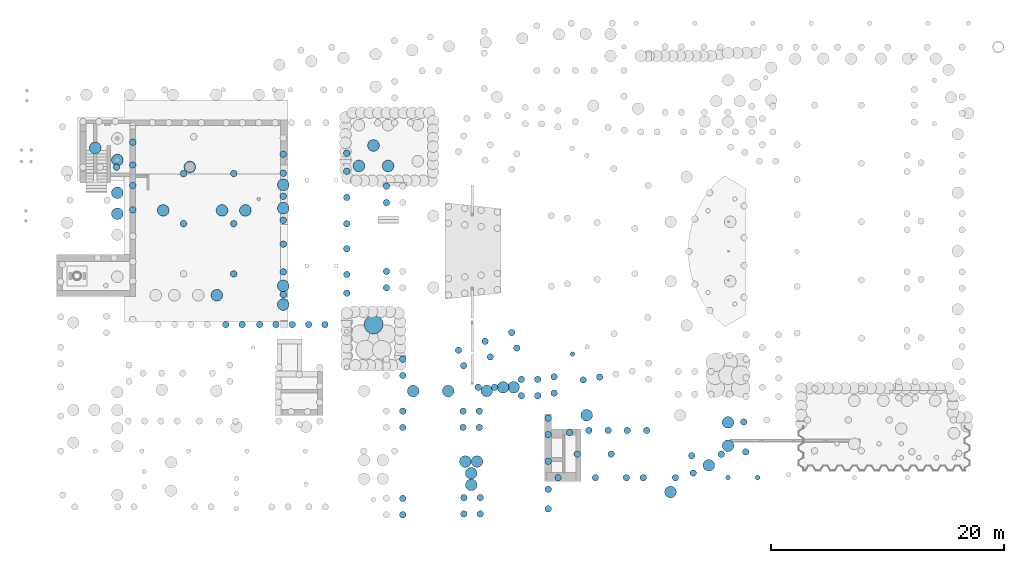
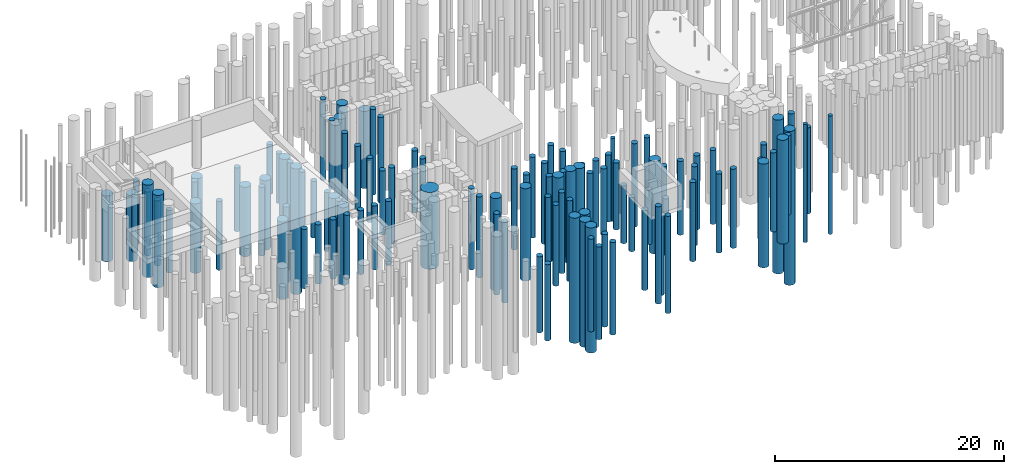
# One storey, part 2 of 104: 121 piles.
"""IFC2X3 building model written with IfcOpenShell, lengths in millimetres."""

from ifc_helpers import new_model, entity, si_unit, converted_unit, derived_unit, direction, frame, frame_2d, origin, place, context, subcontext, project, spatial, circle, extrude, source, transform, mapped, material, element, save


model = new_model("IFC2X3")

# Units and contexts
model_context = context("Model", 3, precision=0.01, world=origin(), true_north=direction((6.12303176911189e-17, 1.0)))
body_context = subcontext(model_context, "Body", "Model", "MODEL_VIEW")
ifc_project = project(units=[si_unit("LENGTHUNIT", "METRE", prefix="MILLI"), si_unit("AREAUNIT", "SQUARE_METRE", prefix="MILLI"), si_unit("VOLUMEUNIT", "CUBIC_METRE"), converted_unit("PLANEANGLEUNIT", "DEGREE", entity("IfcRatioMeasure", 0.0174532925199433), si_unit("PLANEANGLEUNIT", "RADIAN"), dimensions=[0, 0, 0, 0, 0, 0, 0]), si_unit("MASSUNIT", "GRAM", prefix="KILO"), derived_unit("MASSDENSITYUNIT", [(si_unit("MASSUNIT", "GRAM", prefix="KILO"), 1), (si_unit("LENGTHUNIT", "METRE"), -3)]), derived_unit("MOMENTOFINERTIAUNIT", [(si_unit("LENGTHUNIT", "METRE"), 4)]), si_unit("TIMEUNIT", "SECOND"), si_unit("FREQUENCYUNIT", "HERTZ"), si_unit("THERMODYNAMICTEMPERATUREUNIT", "DEGREE_CELSIUS"), derived_unit("THERMALTRANSMITTANCEUNIT", [(si_unit("MASSUNIT", "GRAM", prefix="KILO"), 1), (si_unit("THERMODYNAMICTEMPERATUREUNIT", "KELVIN"), -1), (si_unit("TIMEUNIT", "SECOND"), -3)]), derived_unit("VOLUMETRICFLOWRATEUNIT", [(si_unit("LENGTHUNIT", "METRE"), 3), (si_unit("TIMEUNIT", "SECOND"), -1)]), si_unit("ELECTRICCURRENTUNIT", "AMPERE"), si_unit("ELECTRICVOLTAGEUNIT", "VOLT"), si_unit("POWERUNIT", "WATT"), si_unit("FORCEUNIT", "NEWTON", prefix="KILO"), si_unit("ILLUMINANCEUNIT", "LUX"), si_unit("LUMINOUSFLUXUNIT", "LUMEN"), si_unit("LUMINOUSINTENSITYUNIT", "CANDELA"), derived_unit("USERDEFINED", [(si_unit("MASSUNIT", "GRAM", prefix="KILO"), -1), (si_unit("LENGTHUNIT", "METRE"), -2), (si_unit("TIMEUNIT", "SECOND"), 3), (si_unit("LUMINOUSFLUXUNIT", "LUMEN"), 1)]), derived_unit("LINEARVELOCITYUNIT", [(si_unit("LENGTHUNIT", "METRE"), 1), (si_unit("TIMEUNIT", "SECOND"), -1)]), si_unit("PRESSUREUNIT", "PASCAL"), derived_unit("USERDEFINED", [(si_unit("LENGTHUNIT", "METRE"), -2), (si_unit("MASSUNIT", "GRAM", prefix="KILO"), 1), (si_unit("TIMEUNIT", "SECOND"), -2)]), derived_unit("LINEARFORCEUNIT", [(si_unit("MASSUNIT", "GRAM", prefix="KILO"), 1), (si_unit("LENGTHUNIT", "METRE"), 1), (si_unit("TIMEUNIT", "SECOND"), -2), (si_unit("LENGTHUNIT", "METRE"), -1)]), derived_unit("PLANARFORCEUNIT", [(si_unit("MASSUNIT", "GRAM", prefix="KILO"), 1), (si_unit("LENGTHUNIT", "METRE"), 1), (si_unit("TIMEUNIT", "SECOND"), -2), (si_unit("LENGTHUNIT", "METRE"), -2)])], contexts=[model_context])

# Site, building, storey
site_placement = place(None, origin())
site = spatial("IfcSite", under=ifc_project, at=site_placement, Name="Theater aan de Parade", CompositionType="ELEMENT")
building_placement = place(site_placement, origin())
building = spatial("IfcBuilding", under=site, at=building_placement, Name="Theater aan de Parade", CompositionType="ELEMENT")
storey_placement = place(building_placement, frame((0.0, 0.0, -5520.0)))
storey = spatial("IfcBuildingStorey", under=building, at=storey_placement, Name="-2 kelder", CompositionType="ELEMENT", Elevation=-5520.0)

# Piles
ifc_material_1 = material(Name="<Unnamed>")
shared_shape_1 = source(origin(), body_context, "Body", "SweptSolid", [
    extrude(circle(Radius=280.0, at=frame_2d((-1.47690177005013e-29, -4.61316659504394e-13), x_axis=(1.0, 0.0))), frame((0.0, 0.0, -12360.0)), (0.0, 0.0, 1.0), 5819.99999999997),
])
pile_1_placement = place(storey_placement, frame((15130.0, 39650.0, 5520.0)))
element("IfcPile", 1, at=pile_1_placement, inside=storey, material=ifc_material_1, Name="17_PBT_SFO_paal_rond:Ø560 (betonpaal)_bestaand", ObjectType="17_PBT_SFO_paal_rond:Ø560 (betonpaal)_bestaand", PredefinedType="NOTDEFINED", context=body_context, shape_type="MappedRepresentation", body=[
    mapped(shared_shape_1, transform((0.0, 0.0, 0.0), scale=1.0)),
])
shared_shape_2 = source(origin(), body_context, "Body", "SweptSolid", [
    extrude(circle(Radius=280.0, at=frame_2d((1.69197988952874e-14, -4.61316659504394e-13), x_axis=(1.0, 0.0))), frame((0.0, 0.0, -13360.0)), (0.0, 0.0, 1.0), 6819.99999999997),
])
for number, where in (
    (2, (16525.0, 41780.0, 5520.0)),
    (3, (16525.0, 39830.0, 5520.0)),
    (4, (20875.0, 39100.0, 5520.0)),
    (5, (25175.0, 39100.0, 5520.0)),
):
    element("IfcPile", number, at=place(storey_placement, frame(where)), inside=storey, material=ifc_material_1, Name="17_PBT_SFO_paal_rond:Ø560 (betonpaal)_bestaand", ObjectType="17_PBT_SFO_paal_rond:Ø560 (betonpaal)_bestaand", PredefinedType="NOTDEFINED", context=body_context, shape_type="MappedRepresentation", body=[
        mapped(shared_shape_2, transform((0.0, 0.0, 0.0), scale=1.0)),
    ])
shared_shape_3 = source(origin(), body_context, "Body", "SweptSolid", [
    extrude(circle(Radius=280.0, at=frame_2d((1.69197988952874e-14, -4.61316659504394e-13), x_axis=(1.0, 0.0))), frame((0.0, 0.0, -13360.0)), (0.0, 0.0, 1.0), 6938.99999999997),
])
pile_2_placement = place(storey_placement, frame((16525.0, 38080.0, 5520.0)))
element("IfcPile", 6, at=pile_2_placement, inside=storey, material=ifc_material_1, Name="17_PBT_SFO_paal_rond:Ø560 (betonpaal)_bestaand", ObjectType="17_PBT_SFO_paal_rond:Ø560 (betonpaal)_bestaand", PredefinedType="NOTDEFINED", context=body_context, shape_type="MappedRepresentation", body=[
    mapped(shared_shape_3, transform((0.0, 0.0, 0.0), scale=1.0)),
])
shared_shape_4 = source(origin(), body_context, "Body", "SweptSolid", [
    extrude(circle(Radius=280.0, at=frame_2d((-1.69197988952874e-14, -5.23489148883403e-13), x_axis=(1.0, 0.0))), frame((0.0, 0.0, -12860.0)), (0.0, 0.0, 1.0), 6692.99999999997),
])
pile_3_placement = place(storey_placement, frame((16525.0, 35980.0, 5520.0)))
element("IfcPile", 7, at=pile_3_placement, inside=storey, material=ifc_material_1, Name="17_PBT_SFO_paal_rond:Ø560 (betonpaal)_bestaand", ObjectType="17_PBT_SFO_paal_rond:Ø560 (betonpaal)_bestaand", PredefinedType="NOTDEFINED", context=body_context, shape_type="MappedRepresentation", body=[
    mapped(shared_shape_4, transform((0.0, 0.0, 0.0), scale=1.0)),
])
shared_shape_5 = source(origin(), body_context, "Body", "SweptSolid", [
    extrude(circle(Radius=280.0, at=frame_2d((1.69197988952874e-14, -4.61316659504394e-13), x_axis=(1.0, 0.0))), frame((0.0, 0.0, -11360.0)), (0.0, 0.0, 1.0), 7139.99999999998),
])
for number, where in (
    (8, (49825.0, 20060.0, 5520.0)),
    (9, (49825.0, 21460.0, 5520.0)),
    (10, (51225.0, 20060.0, 5520.0)),
    (11, (52625.0, 20280.0, 5520.0)),
    (12, (51225.0, 21460.0, 5520.0)),
    (13, (52625.0, 21680.0, 5520.0)),
):
    element("IfcPile", number, at=place(storey_placement, frame(where)), inside=storey, material=ifc_material_1, Name="17_PBT_SFO_paal_rond:Ø560 (betonpaal)_bestaand", ObjectType="17_PBT_SFO_paal_rond:Ø560 (betonpaal)_bestaand", PredefinedType="NOTDEFINED", context=body_context, shape_type="MappedRepresentation", body=[
        mapped(shared_shape_5, transform((0.0, 0.0, 0.0), scale=1.0)),
    ])
shared_shape_6 = source(origin(), body_context, "Body", "SweptSolid", [
    extrude(circle(Radius=280.0, at=frame_2d((1.69197988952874e-14, -4.61316659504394e-13), x_axis=(1.0, 0.0))), frame((0.0, 0.0, -12610.0)), (0.0, 0.0, 1.0), 8889.99999999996),
])
for number, where in (
    (14, (55125.0, 21417.0, 5520.0)),
    (15, (56525.0, 21662.0, 5520.0)),
):
    element("IfcPile", number, at=place(storey_placement, frame(where)), inside=storey, material=ifc_material_1, Name="17_PBT_SFO_paal_rond:Ø560 (betonpaal)_bestaand", ObjectType="17_PBT_SFO_paal_rond:Ø560 (betonpaal)_bestaand", PredefinedType="NOTDEFINED", context=body_context, shape_type="MappedRepresentation", body=[
        mapped(shared_shape_6, transform((0.0, 0.0, 0.0), scale=1.0)),
    ])
shared_shape_7 = source(origin(), body_context, "Body", "SweptSolid", [
    extrude(circle(Radius=280.0, at=frame_2d((1.69197988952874e-14, -4.61316659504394e-13), x_axis=(1.0, 0.0))), frame((0.0, 0.0, -12860.0)), (0.0, 0.0, 1.0), 9139.99999999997),
])
for number, where in (
    (16, (47525.0, 20780.0, 5520.0)),
    (17, (46125.0, 20780.0, 5520.0)),
):
    element("IfcPile", number, at=place(storey_placement, frame(where)), inside=storey, material=ifc_material_1, Name="17_PBT_SFO_paal_rond:Ø560 (betonpaal)_bestaand", ObjectType="17_PBT_SFO_paal_rond:Ø560 (betonpaal)_bestaand", PredefinedType="NOTDEFINED", context=body_context, shape_type="MappedRepresentation", body=[
        mapped(shared_shape_7, transform((0.0, 0.0, 0.0), scale=1.0)),
    ])
shared_shape_8 = source(origin(), body_context, "Body", "SweptSolid", [
    extrude(circle(Radius=280.0, at=frame_2d((1.69197988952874e-14, -4.61316659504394e-13), x_axis=(1.0, 0.0))), frame((0.0, 0.0, -11860.0)), (0.0, 0.0, 1.0), 8139.99999999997),
])
pile_4_placement = place(storey_placement, frame((34865.0, 28850.0, 5520.0)))
element("IfcPile", 18, at=pile_4_placement, inside=storey, material=ifc_material_1, Name="17_PBT_SFO_paal_rond:Ø560 (betonpaal)_bestaand", ObjectType="17_PBT_SFO_paal_rond:Ø560 (betonpaal)_bestaand", PredefinedType="NOTDEFINED", context=body_context, shape_type="MappedRepresentation", body=[
    mapped(shared_shape_8, transform((0.0, 0.0, 0.0), scale=1.0)),
])
shared_shape_9 = source(origin(), body_context, "Body", "SweptSolid", [
    extrude(circle(Radius=280.0, at=frame_2d((1.69197988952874e-14, -4.61316659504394e-13), x_axis=(1.0, 0.0))), frame((0.0, 0.0, -11860.0)), (0.0, 0.0, 1.0), 6839.99999999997),
])
for number, where in (
    (19, (28795.0, 26160.0, 5520.0)),
    (20, (30195.0, 26160.0, 5520.0)),
    (21, (31595.0, 26160.0, 5520.0)),
    (22, (32995.0, 26160.0, 5520.0)),
    (23, (34865.0, 34800.0, 5520.0)),
    (24, (34865.0, 32650.0, 5520.0)),
    (25, (34865.0, 30450.0, 5520.0)),
):
    element("IfcPile", number, at=place(storey_placement, frame(where)), inside=storey, material=ifc_material_1, Name="17_PBT_SFO_paal_rond:Ø560 (betonpaal)_bestaand", ObjectType="17_PBT_SFO_paal_rond:Ø560 (betonpaal)_bestaand", PredefinedType="NOTDEFINED", context=body_context, shape_type="MappedRepresentation", body=[
        mapped(shared_shape_9, transform((0.0, 0.0, 0.0), scale=1.0)),
    ])
shared_shape_10 = source(origin(), body_context, "Body", "SweptSolid", [
    extrude(circle(Radius=280.0, at=frame_2d((1.69197988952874e-14, -4.61316659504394e-13), x_axis=(1.0, 0.0))), frame((0.0, 0.0, -11360.0)), (0.0, 0.0, 1.0), 6339.99999999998),
])
for number, where in (
    (26, (24495.0, 26160.0, 5520.0)),
    (27, (25895.0, 26160.0, 5520.0)),
    (28, (27395.0, 26160.0, 5520.0)),
):
    element("IfcPile", number, at=place(storey_placement, frame(where)), inside=storey, material=ifc_material_1, Name="17_PBT_SFO_paal_rond:Ø560 (betonpaal)_bestaand", ObjectType="17_PBT_SFO_paal_rond:Ø560 (betonpaal)_bestaand", PredefinedType="NOTDEFINED", context=body_context, shape_type="MappedRepresentation", body=[
        mapped(shared_shape_10, transform((0.0, 0.0, 0.0), scale=1.0)),
    ])
shared_shape_11 = source(origin(), body_context, "Body", "SweptSolid", [
    extrude(circle(Radius=280.0, at=frame_2d((1.69197988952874e-14, -4.61316659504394e-13), x_axis=(1.0, 0.0))), frame((0.0, 0.0, -12360.0)), (0.0, 0.0, 1.0), 7339.99999999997),
])
for number, where in (
    (29, (34865.0, 39300.0, 5520.0)),
    (30, (34865.0, 37050.0, 5520.0)),
):
    element("IfcPile", number, at=place(storey_placement, frame(where)), inside=storey, material=ifc_material_1, Name="17_PBT_SFO_paal_rond:Ø560 (betonpaal)_bestaand", ObjectType="17_PBT_SFO_paal_rond:Ø560 (betonpaal)_bestaand", PredefinedType="NOTDEFINED", context=body_context, shape_type="MappedRepresentation", body=[
        mapped(shared_shape_11, transform((0.0, 0.0, 0.0), scale=1.0)),
    ])
shared_shape_12 = source(origin(), body_context, "Body", "SweptSolid", [
    extrude(circle(Radius=280.0, at=frame_2d((1.69197988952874e-14, -4.61316659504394e-13), x_axis=(1.0, 0.0))), frame((0.0, 0.0, -12360.0)), (0.0, 0.0, 1.0), 6849.99999999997),
])
pile_5_placement = place(storey_placement, frame((25175.0, 30500.0, 5520.0)))
element("IfcPile", 31, at=pile_5_placement, inside=storey, material=ifc_material_1, Name="17_PBT_SFO_paal_rond:Ø560 (betonpaal)_bestaand", ObjectType="17_PBT_SFO_paal_rond:Ø560 (betonpaal)_bestaand", PredefinedType="NOTDEFINED", context=body_context, shape_type="MappedRepresentation", body=[
    mapped(shared_shape_12, transform((0.0, 0.0, 0.0), scale=1.0)),
])
shared_shape_13 = source(origin(), body_context, "Body", "SweptSolid", [
    extrude(circle(Radius=280.0, at=frame_2d((1.69197988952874e-14, -4.61316659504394e-13), x_axis=(1.0, 0.0))), frame((0.0, 0.0, -13360.0)), (0.0, 0.0, 1.0), 7351.99999999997),
])
for number, where in (
    (32, (20875.0, 34800.0, 5520.0)),
    (33, (25175.0, 34800.0, 5520.0)),
):
    element("IfcPile", number, at=place(storey_placement, frame(where)), inside=storey, material=ifc_material_1, Name="17_PBT_SFO_paal_rond:Ø560 (betonpaal)_bestaand", ObjectType="17_PBT_SFO_paal_rond:Ø560 (betonpaal)_bestaand", PredefinedType="NOTDEFINED", context=body_context, shape_type="MappedRepresentation", body=[
        mapped(shared_shape_13, transform((0.0, 0.0, 0.0), scale=1.0)),
    ])
shared_shape_14 = source(origin(), body_context, "Body", "SweptSolid", [
    extrude(circle(Radius=280.0, at=frame_2d((1.69197988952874e-14, -4.61316659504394e-13), x_axis=(1.0, 0.0))), frame((0.0, 0.0, -11860.0)), (0.0, 0.0, 1.0), 5319.99999999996),
])
for number, where in (
    (34, (29425.0, 40750.0, 5520.0)),
    (35, (29425.0, 39130.0, 5520.0)),
):
    element("IfcPile", number, at=place(storey_placement, frame(where)), inside=storey, material=ifc_material_1, Name="17_PBT_SFO_paal_rond:Ø560 (betonpaal)_bestaand", ObjectType="17_PBT_SFO_paal_rond:Ø560 (betonpaal)_bestaand", PredefinedType="NOTDEFINED", context=body_context, shape_type="MappedRepresentation", body=[
        mapped(shared_shape_14, transform((0.0, 0.0, 0.0), scale=1.0)),
    ])
shared_shape_15 = source(origin(), body_context, "Body", "SweptSolid", [
    extrude(circle(Radius=280.0, at=frame_2d((1.69197988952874e-14, -4.61316659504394e-13), x_axis=(1.0, 0.0))), frame((0.0, 0.0, -11860.0)), (0.0, 0.0, 1.0), 5561.99999999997),
])
pile_6_placement = place(storey_placement, frame((29425.0, 37150.0, 5520.0)))
element("IfcPile", 36, at=pile_6_placement, inside=storey, material=ifc_material_1, Name="17_PBT_SFO_paal_rond:Ø560 (betonpaal)_bestaand", ObjectType="17_PBT_SFO_paal_rond:Ø560 (betonpaal)_bestaand", PredefinedType="NOTDEFINED", context=body_context, shape_type="MappedRepresentation", body=[
    mapped(shared_shape_15, transform((0.0, 0.0, 0.0), scale=1.0)),
])
shared_shape_16 = source(origin(), body_context, "Body", "SweptSolid", [
    extrude(circle(Radius=280.0, at=frame_2d((-1.69197988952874e-14, -5.23489148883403e-13), x_axis=(1.0, 0.0))), frame((0.0, 0.0, -11860.0)), (0.0, 0.0, 1.0), 5796.99999999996),
])
pile_7_placement = place(storey_placement, frame((29425.0, 35100.0, 5520.0)))
element("IfcPile", 37, at=pile_7_placement, inside=storey, material=ifc_material_1, Name="17_PBT_SFO_paal_rond:Ø560 (betonpaal)_bestaand", ObjectType="17_PBT_SFO_paal_rond:Ø560 (betonpaal)_bestaand", PredefinedType="NOTDEFINED", context=body_context, shape_type="MappedRepresentation", body=[
    mapped(shared_shape_16, transform((0.0, 0.0, 0.0), scale=1.0)),
])
shared_shape_17 = source(origin(), body_context, "Body", "SweptSolid", [
    extrude(circle(Radius=280.0, at=frame_2d((1.69197988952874e-14, -4.61316659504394e-13), x_axis=(1.0, 0.0))), frame((0.0, 0.0, -11860.0)), (0.0, 0.0, 1.0), 6043.99999999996),
])
pile_8_placement = place(storey_placement, frame((29425.0, 33050.0, 5520.0)))
element("IfcPile", 38, at=pile_8_placement, inside=storey, material=ifc_material_1, Name="17_PBT_SFO_paal_rond:Ø560 (betonpaal)_bestaand", ObjectType="17_PBT_SFO_paal_rond:Ø560 (betonpaal)_bestaand", PredefinedType="NOTDEFINED", context=body_context, shape_type="MappedRepresentation", body=[
    mapped(shared_shape_17, transform((0.0, 0.0, 0.0), scale=1.0)),
])
shared_shape_18 = source(origin(), body_context, "Body", "SweptSolid", [
    extrude(circle(Radius=280.0, at=frame_2d((1.69197988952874e-14, -4.61316659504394e-13), x_axis=(1.0, 0.0))), frame((0.0, 0.0, -11860.0)), (0.0, 0.0, 1.0), 6299.99999999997),
])
pile_9_placement = place(storey_placement, frame((29425.0, 30670.0, 5520.0)))
element("IfcPile", 39, at=pile_9_placement, inside=storey, material=ifc_material_1, Name="17_PBT_SFO_paal_rond:Ø560 (betonpaal)_bestaand", ObjectType="17_PBT_SFO_paal_rond:Ø560 (betonpaal)_bestaand", PredefinedType="NOTDEFINED", context=body_context, shape_type="MappedRepresentation", body=[
    mapped(shared_shape_18, transform((0.0, 0.0, 0.0), scale=1.0)),
])
shared_shape_19 = source(origin(), body_context, "Body", "SweptSolid", [
    extrude(circle(Radius=280.0, at=frame_2d((1.69197988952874e-14, -4.61316659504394e-13), x_axis=(1.0, 0.0))), frame((0.0, 0.0, -11860.0)), (0.0, 0.0, 1.0), 6561.99999999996),
])
pile_10_placement = place(storey_placement, frame((29425.0, 28720.0, 5520.0)))
element("IfcPile", 40, at=pile_10_placement, inside=storey, material=ifc_material_1, Name="17_PBT_SFO_paal_rond:Ø560 (betonpaal)_bestaand", ObjectType="17_PBT_SFO_paal_rond:Ø560 (betonpaal)_bestaand", PredefinedType="NOTDEFINED", context=body_context, shape_type="MappedRepresentation", body=[
    mapped(shared_shape_19, transform((0.0, 0.0, 0.0), scale=1.0)),
])
shared_shape_20 = source(origin(), body_context, "Body", "SweptSolid", [
    extrude(circle(Radius=280.0, at=frame_2d((1.69197988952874e-14, -4.61316659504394e-13), x_axis=(1.0, 0.0))), frame((0.0, 0.0, -12360.0)), (0.0, 0.0, 1.0), 8639.99999999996),
])
pile_11_placement = place(storey_placement, frame((34865.0, 40850.0, 5520.0)))
element("IfcPile", 41, at=pile_11_placement, inside=storey, material=ifc_material_1, Name="17_PBT_SFO_paal_rond:Ø560 (betonpaal)_bestaand", ObjectType="17_PBT_SFO_paal_rond:Ø560 (betonpaal)_bestaand", PredefinedType="NOTDEFINED", context=body_context, shape_type="MappedRepresentation", body=[
    mapped(shared_shape_20, transform((0.0, 0.0, 0.0), scale=1.0)),
])
shared_shape_21 = source(origin(), body_context, "Body", "SweptSolid", [
    extrude(circle(Radius=280.0, at=frame_2d((1.69197988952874e-14, -4.61316659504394e-13), x_axis=(1.0, 0.0))), frame((0.0, 0.0, -13360.0)), (0.0, 0.0, 1.0), 9139.99999999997),
])
for number, where in (
    (42, (38265.0, 38010.0, 5520.0)),
    (43, (38265.0, 36610.0, 5520.0)),
):
    element("IfcPile", number, at=place(storey_placement, frame(where)), inside=storey, material=ifc_material_1, Name="17_PBT_SFO_paal_rond:Ø560 (betonpaal)_bestaand", ObjectType="17_PBT_SFO_paal_rond:Ø560 (betonpaal)_bestaand", PredefinedType="NOTDEFINED", context=body_context, shape_type="MappedRepresentation", body=[
        mapped(shared_shape_21, transform((0.0, 0.0, 0.0), scale=1.0)),
    ])
shared_shape_22 = source(origin(), body_context, "Body", "SweptSolid", [
    extrude(circle(Radius=280.0, at=frame_2d((1.69197988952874e-14, -4.61316659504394e-13), x_axis=(1.0, 0.0))), frame((0.0, 0.0, -10860.0)), (0.0, 0.0, 1.0), 6639.99999999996),
])
for number, where in (
    (44, (38265.0, 30710.0, 5520.0)),
    (45, (38265.0, 29310.0, 5520.0)),
):
    element("IfcPile", number, at=place(storey_placement, frame(where)), inside=storey, material=ifc_material_1, Name="17_PBT_SFO_paal_rond:Ø560 (betonpaal)_bestaand", ObjectType="17_PBT_SFO_paal_rond:Ø560 (betonpaal)_bestaand", PredefinedType="NOTDEFINED", context=body_context, shape_type="MappedRepresentation", body=[
        mapped(shared_shape_22, transform((0.0, 0.0, 0.0), scale=1.0)),
    ])
shared_shape_23 = source(origin(), body_context, "Body", "SweptSolid", [
    extrude(circle(Radius=280.0, at=frame_2d((1.69197988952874e-14, -4.61316659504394e-13), x_axis=(1.0, 0.0))), frame((0.0, 0.0, -12860.0)), (0.0, 0.0, 1.0), 8639.99999999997),
])
for number, where in (
    (46, (39665.0, 23190.0, 5520.0)),
    (47, (39665.0, 21790.0, 5520.0)),
    (48, (39665.0, 18740.0, 5520.0)),
    (49, (39665.0, 17340.0, 5520.0)),
    (50, (48993.0, 25474.0, 5520.0)),
    (51, (49435.0, 24146.0, 5520.0)),
    (52, (46716.0, 24717.0, 5520.0)),
    (53, (44438.0, 23961.0, 5520.0)),
    (54, (44880.0, 22633.0, 5520.0)),
    (55, (47158.0, 23389.0, 5520.0)),
    (56, (46225.0, 18740.0, 5520.0)),
    (57, (44825.0, 18740.0, 5520.0)),
    (58, (46225.0, 17340.0, 5520.0)),
    (59, (44825.0, 17340.0, 5520.0)),
):
    element("IfcPile", number, at=place(storey_placement, frame(where)), inside=storey, material=ifc_material_1, Name="17_PBT_SFO_paal_rond:Ø560 (betonpaal)_bestaand", ObjectType="17_PBT_SFO_paal_rond:Ø560 (betonpaal)_bestaand", PredefinedType="NOTDEFINED", context=body_context, shape_type="MappedRepresentation", body=[
        mapped(shared_shape_23, transform((0.0, 0.0, 0.0), scale=1.0)),
    ])
shared_shape_24 = source(origin(), body_context, "Body", "SweptSolid", [
    extrude(circle(Radius=280.0, at=frame_2d((1.69197988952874e-14, -4.61316659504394e-13), x_axis=(1.0, 0.0))), frame((0.0, 0.0, -12360.0)), (0.0, 0.0, 1.0), 8139.99999999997),
])
for number, where in (
    (60, (39665.0, 11260.0, 5520.0)),
    (61, (39665.0, 9860.0, 5520.0)),
):
    element("IfcPile", number, at=place(storey_placement, frame(where)), inside=storey, material=ifc_material_1, Name="17_PBT_SFO_paal_rond:Ø560 (betonpaal)_bestaand", ObjectType="17_PBT_SFO_paal_rond:Ø560 (betonpaal)_bestaand", PredefinedType="NOTDEFINED", context=body_context, shape_type="MappedRepresentation", body=[
        mapped(shared_shape_24, transform((0.0, 0.0, 0.0), scale=1.0)),
    ])
shared_shape_25 = source(origin(), body_context, "Body", "SweptSolid", [
    extrude(circle(Radius=280.0, at=frame_2d((1.69197988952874e-14, -4.61316659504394e-13), x_axis=(1.0, 0.0))), frame((0.0, 0.0, -14110.0)), (0.0, 0.0, 1.0), 9889.99999999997),
])
for number, where in (
    (62, (46300.0, 11330.0, 5520.0)),
    (63, (44900.0, 11330.0, 5520.0)),
    (64, (46300.0, 9930.0, 5520.0)),
    (65, (44900.0, 9930.0, 5520.0)),
):
    element("IfcPile", number, at=place(storey_placement, frame(where)), inside=storey, material=ifc_material_1, Name="17_PBT_SFO_paal_rond:Ø560 (betonpaal)_bestaand", ObjectType="17_PBT_SFO_paal_rond:Ø560 (betonpaal)_bestaand", PredefinedType="NOTDEFINED", context=body_context, shape_type="MappedRepresentation", body=[
        mapped(shared_shape_25, transform((0.0, 0.0, 0.0), scale=1.0)),
    ])
shared_shape_26 = source(origin(), body_context, "Body", "SweptSolid", [
    extrude(circle(Radius=200.0, at=frame_2d((1.69197988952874e-14, -3.02923644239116e-13), x_axis=(1.0, 0.0))), frame((0.0, 0.0, -13110.0)), (0.0, 0.0, 1.0), 8889.99999999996),
])
pile_12_placement = place(storey_placement, frame((54200.5857740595, 23630.0, 5520.0)))
element("IfcPile", 66, at=pile_12_placement, inside=storey, material=ifc_material_1, Name="17_PBT_SFO_paal_rond:Ø400 (betonpaal)_bestaand", ObjectType="17_PBT_SFO_paal_rond:Ø400 (betonpaal)_bestaand", PredefinedType="NOTDEFINED", context=body_context, shape_type="MappedRepresentation", body=[
    mapped(shared_shape_26, transform((0.0, 0.0, 0.0), scale=1.0)),
])
shared_shape_27 = source(origin(), body_context, "Body", "SweptSolid", [
    extrude(circle(Radius=280.0, at=frame_2d((1.69197988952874e-14, -4.61316659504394e-13), x_axis=(1.0, 0.0))), frame((0.0, 0.0, -11360.0)), (0.0, 0.0, 1.0), 6179.99999999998),
])
pile_13_placement = place(storey_placement, frame((52125.0, 18135.0, 5520.0)))
element("IfcPile", 67, at=pile_13_placement, inside=storey, material=ifc_material_1, Name="17_PBT_SFO_paal_rond:Ø560 (betonpaal)_bestaand", ObjectType="17_PBT_SFO_paal_rond:Ø560 (betonpaal)_bestaand", PredefinedType="NOTDEFINED", context=body_context, shape_type="MappedRepresentation", body=[
    mapped(shared_shape_27, transform((0.0, 0.0, 0.0), scale=1.0)),
])
shared_shape_28 = source(origin(), body_context, "Body", "SweptSolid", [
    extrude(circle(Radius=280.0, at=frame_2d((1.69197988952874e-14, -4.61316659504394e-13), x_axis=(1.0, 0.0))), frame((0.0, 0.0, -11360.0)), (0.0, 0.0, 1.0), 5779.99999999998),
])
for number, where in (
    (68, (52125.0, 16725.0, 5520.0)),
    (69, (53955.0, 16910.0, 5520.0)),
):
    element("IfcPile", number, at=place(storey_placement, frame(where)), inside=storey, material=ifc_material_1, Name="17_PBT_SFO_paal_rond:Ø560 (betonpaal)_bestaand", ObjectType="17_PBT_SFO_paal_rond:Ø560 (betonpaal)_bestaand", PredefinedType="NOTDEFINED", context=body_context, shape_type="MappedRepresentation", body=[
        mapped(shared_shape_28, transform((0.0, 0.0, 0.0), scale=1.0)),
    ])
shared_shape_29 = source(origin(), body_context, "Body", "SweptSolid", [
    extrude(circle(Radius=280.0, at=frame_2d((1.69197988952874e-14, -4.61316659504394e-13), x_axis=(1.0, 0.0))), frame((0.0, 0.0, -14110.0)), (0.0, 0.0, 1.0), 8529.99999999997),
])
for number, where in (
    (70, (52125.0, 14445.0, 5520.0)),
    (71, (52970.0, 13035.0, 5520.0)),
):
    element("IfcPile", number, at=place(storey_placement, frame(where)), inside=storey, material=ifc_material_1, Name="17_PBT_SFO_paal_rond:Ø560 (betonpaal)_bestaand", ObjectType="17_PBT_SFO_paal_rond:Ø560 (betonpaal)_bestaand", PredefinedType="NOTDEFINED", context=body_context, shape_type="MappedRepresentation", body=[
        mapped(shared_shape_29, transform((0.0, 0.0, 0.0), scale=1.0)),
    ])
shared_shape_30 = source(origin(), body_context, "Body", "SweptSolid", [
    extrude(circle(Radius=280.0, at=frame_2d((1.69197988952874e-14, -4.61316659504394e-13), x_axis=(1.0, 0.0))), frame((0.0, 0.0, -14110.0)), (0.0, 0.0, 1.0), 10390.0),
])
for number, where in (
    (72, (52125.0, 12045.0, 5520.0)),
    (73, (52125.0, 10365.0, 5520.0)),
):
    element("IfcPile", number, at=place(storey_placement, frame(where)), inside=storey, material=ifc_material_1, Name="17_PBT_SFO_paal_rond:Ø560 (betonpaal)_bestaand", ObjectType="17_PBT_SFO_paal_rond:Ø560 (betonpaal)_bestaand", PredefinedType="NOTDEFINED", context=body_context, shape_type="MappedRepresentation", body=[
        mapped(shared_shape_30, transform((0.0, 0.0, 0.0), scale=1.0)),
    ])
shared_shape_31 = source(origin(), body_context, "Body", "SweptSolid", [
    extrude(circle(Radius=280.0, at=frame_2d((1.69197988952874e-14, -4.61316659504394e-13), x_axis=(1.0, 0.0))), frame((0.0, 0.0, -11610.0)), (0.0, 0.0, 1.0), 7889.99999999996),
])
for number, where in (
    (74, (55605.0, 17085.0, 5520.0)),
    (75, (57255.0, 17085.0, 5520.0)),
    (76, (58905.0, 17085.0, 5520.0)),
    (77, (60555.0, 17085.0, 5520.0)),
):
    element("IfcPile", number, at=place(storey_placement, frame(where)), inside=storey, material=ifc_material_1, Name="17_PBT_SFO_paal_rond:Ø560 (betonpaal)_bestaand", ObjectType="17_PBT_SFO_paal_rond:Ø560 (betonpaal)_bestaand", PredefinedType="NOTDEFINED", context=body_context, shape_type="MappedRepresentation", body=[
        mapped(shared_shape_31, transform((0.0, 0.0, 0.0), scale=1.0)),
    ])
shared_shape_32 = source(origin(), body_context, "Body", "SweptSolid", [
    extrude(circle(Radius=280.0, at=frame_2d((-1.47690177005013e-29, -4.61316659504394e-13), x_axis=(1.0, 0.0))), frame((0.0, 0.0, -11610.0)), (0.0, 0.0, 1.0), 6029.99999999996),
])
pile_14_placement = place(storey_placement, frame((54615.0, 15060.0, 5520.0)))
element("IfcPile", 78, at=pile_14_placement, inside=storey, material=ifc_material_1, Name="17_PBT_SFO_paal_rond:Ø560 (betonpaal)_bestaand", ObjectType="17_PBT_SFO_paal_rond:Ø560 (betonpaal)_bestaand", PredefinedType="NOTDEFINED", context=body_context, shape_type="MappedRepresentation", body=[
    mapped(shared_shape_32, transform((0.0, 0.0, 0.0), scale=1.0)),
])
shared_shape_33 = source(origin(), body_context, "Body", "SweptSolid", [
    extrude(circle(Radius=280.0, at=frame_2d((1.69197988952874e-14, -4.61316659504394e-13), x_axis=(1.0, 0.0))), frame((0.0, 0.0, -11610.0)), (0.0, 0.0, 1.0), 8449.99999999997),
])
for number, where in (
    (79, (57515.0, 15060.0, 5520.0)),
    (80, (64420.0, 14920.0, 5520.0)),
    (81, (66950.0, 15045.0, 5520.0)),
    (82, (56170.0, 13035.0, 5520.0)),
    (83, (58820.0, 13035.0, 5520.0)),
    (84, (60270.0, 13035.0, 5520.0)),
    (85, (63020.0, 13035.0, 5520.0)),
    (86, (64545.0, 13435.0, 5520.0)),
):
    element("IfcPile", number, at=place(storey_placement, frame(where)), inside=storey, material=ifc_material_1, Name="17_PBT_SFO_paal_rond:Ø560 (betonpaal)_bestaand", ObjectType="17_PBT_SFO_paal_rond:Ø560 (betonpaal)_bestaand", PredefinedType="NOTDEFINED", context=body_context, shape_type="MappedRepresentation", body=[
        mapped(shared_shape_33, transform((0.0, 0.0, 0.0), scale=1.0)),
    ])
shared_shape_34 = source(origin(), body_context, "Body", "SweptSolid", [
    extrude(circle(Radius=280.0, at=frame_2d((1.69197988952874e-14, -4.61316659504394e-13), x_axis=(1.0, 0.0))), frame((0.0, 0.0, -12360.0)), (0.0, 0.0, 1.0), 9199.99999999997),
])
for number, where in (
    (87, (69050.0, 15250.0, 5520.0)),
    (88, (68875.0, 17810.0, 5520.0)),
):
    element("IfcPile", number, at=place(storey_placement, frame(where)), inside=storey, material=ifc_material_1, Name="17_PBT_SFO_paal_rond:Ø560 (betonpaal)_bestaand", ObjectType="17_PBT_SFO_paal_rond:Ø560 (betonpaal)_bestaand", PredefinedType="NOTDEFINED", context=body_context, shape_type="MappedRepresentation", body=[
        mapped(shared_shape_34, transform((0.0, 0.0, 0.0), scale=1.0)),
    ])
ifc_material_2 = material(Name="00_PBT_MAT_grout")
shared_shape_35 = source(origin(), body_context, "Body", "SweptSolid", [
    extrude(circle(Radius=500.0, at=frame_2d((2.57497682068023e-28, -8.84207602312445e-13), x_axis=(1.0, 0.0))), frame((0.0, 0.0, -19610.0)), (0.0, 0.0, 1.0), 16430.0),
])
for number, where in (
    (89, (67531.256100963, 15773.7384070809, 5520.0)),
    (90, (67531.256100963, 17773.7384070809, 5520.0)),
):
    element("IfcPile", number, at=place(storey_placement, frame(where)), inside=storey, material=ifc_material_2, Name="17_PBT_SFO_paal_rond:Ø1000 (jetgroutpaal) binnen kelder", ObjectType="17_PBT_SFO_paal_rond:Ø1000 (jetgroutpaal) binnen kelder", PredefinedType="NOTDEFINED", context=body_context, shape_type="MappedRepresentation", body=[
        mapped(shared_shape_35, transform((0.0, 0.0, 0.0), scale=1.0)),
    ])
shared_shape_36 = source(origin(), body_context, "Body", "SweptSolid", [
    extrude(circle(Radius=500.0, at=frame_2d((3.3839597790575e-14, -7.7318529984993e-13), x_axis=(1.0, 0.0))), frame((0.0, 0.0, -13610.0)), (0.0, 0.0, 1.0), 9869.99999999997),
])
for number, where in (
    (91, (55418.8351022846, 18386.367453, 5520.0)),
    (92, (43553.8581300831, 20461.367453, 5520.0)),
    (93, (40553.8581300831, 20461.367453, 5520.0)),
    (94, (48257.0459753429, 20780.0, 5520.0)),
    (95, (49157.0459753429, 20780.0, 5520.0)),
    (96, (15203.8570025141, 35654.9526415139, 5520.0)),
    (97, (15203.8570025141, 37455.1691268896, 5520.0)),
    (98, (46857.0459753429, 20470.0, 5520.0)),
):
    element("IfcPile", number, at=place(storey_placement, frame(where)), inside=storey, material=ifc_material_2, Name="17_PBT_SFO_paal_rond:Ø1000 (jetgroutpaal) binnen kelder", ObjectType="17_PBT_SFO_paal_rond:Ø1000 (jetgroutpaal) binnen kelder", PredefinedType="NOTDEFINED", context=body_context, shape_type="MappedRepresentation", body=[
        mapped(shared_shape_36, transform((0.0, 0.0, 0.0), scale=1.0)),
    ])
shared_shape_37 = source(origin(), body_context, "Body", "SweptSolid", [
    extrude(circle(Radius=500.0, at=frame_2d((3.3839597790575e-14, -7.7318529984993e-13), x_axis=(1.0, 0.0))), frame((0.0, 0.0, -13610.0)), (0.0, 0.0, 1.0), 11080.0),
])
for number, where in (
    (99, (65882.8561640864, 14102.1528727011, 5520.0)),
    (100, (62606.2479869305, 11807.847127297, 5520.0)),
):
    element("IfcPile", number, at=place(storey_placement, frame(where)), inside=storey, material=ifc_material_2, Name="17_PBT_SFO_paal_rond:Ø1000 (jetgroutpaal) binnen kelder", ObjectType="17_PBT_SFO_paal_rond:Ø1000 (jetgroutpaal) binnen kelder", PredefinedType="NOTDEFINED", context=body_context, shape_type="MappedRepresentation", body=[
        mapped(shared_shape_37, transform((0.0, 0.0, 0.0), scale=1.0)),
    ])
shared_shape_38 = source(origin(), body_context, "Body", "SweptSolid", [
    extrude(circle(Radius=500.0, at=frame_2d((3.3839597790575e-14, -7.7318529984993e-13), x_axis=(1.0, 0.0))), frame((0.0, 0.0, -17110.0)), (0.0, 0.0, 1.0), 13370.0),
])
for number, where in (
    (101, (46025.0, 14419.9996942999, 5520.0)),
    (102, (45025.0, 14419.9996942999, 5520.0)),
    (103, (45525.0, 13419.9996942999, 5520.0)),
    (104, (45525.0, 12419.9996942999, 5520.0)),
):
    element("IfcPile", number, at=place(storey_placement, frame(where)), inside=storey, material=ifc_material_2, Name="17_PBT_SFO_paal_rond:Ø1000 (jetgroutpaal) binnen kelder", ObjectType="17_PBT_SFO_paal_rond:Ø1000 (jetgroutpaal) binnen kelder", PredefinedType="NOTDEFINED", context=body_context, shape_type="MappedRepresentation", body=[
        mapped(shared_shape_38, transform((0.0, 0.0, 0.0), scale=1.0)),
    ])
shared_shape_39 = source(origin(), body_context, "Body", "SweptSolid", [
    extrude(circle(Radius=800.0, at=frame_2d((6.76791955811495e-14, -1.34705296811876e-12), x_axis=(1.0, 0.0))), frame((0.0, 0.0, -13360.0)), (0.0, 0.0, 1.0), 8219.99999999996),
])
pile_15_placement = place(storey_placement, frame((37153.8581300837, 26162.3674033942, 5520.0)))
element("IfcPile", 105, at=pile_15_placement, inside=storey, material=ifc_material_2, Name="17_PBT_SFO_paal_rond:Ø1600 (jetgroutpaal) jetgroutlichaam merk B", ObjectType="17_PBT_SFO_paal_rond:Ø1600 (jetgroutpaal) jetgroutlichaam merk B", PredefinedType="NOTDEFINED", context=body_context, shape_type="MappedRepresentation", body=[
    mapped(shared_shape_39, transform((0.0, 0.0, 0.0), scale=1.0)),
])
shared_shape_40 = source(origin(), body_context, "Body", "SweptSolid", [
    extrude(circle(Radius=500.0, at=frame_2d((3.3839597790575e-14, -7.7318529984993e-13), x_axis=(1.0, 0.0))), frame((0.0, 0.0, -13610.0)), (0.0, 0.0, 1.0), 7049.99999999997),
])
for number, where in (
    (106, (21415.0, 39663.308327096, 5520.0)),
    (107, (15203.8570025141, 40254.9748637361, 5520.0)),
    (108, (13304.8570025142, 41295.0, 5520.0)),
):
    element("IfcPile", number, at=place(storey_placement, frame(where)), inside=storey, material=ifc_material_2, Name="17_PBT_SFO_paal_rond:Ø1000 (jetgroutpaal) binnen kelder", ObjectType="17_PBT_SFO_paal_rond:Ø1000 (jetgroutpaal) binnen kelder", PredefinedType="NOTDEFINED", context=body_context, shape_type="MappedRepresentation", body=[
        mapped(shared_shape_40, transform((0.0, 0.0, 0.0), scale=1.0)),
    ])
shared_shape_41 = source(origin(), body_context, "Body", "SweptSolid", [
    extrude(circle(Radius=500.0, at=frame_2d((3.3839597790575e-14, -7.7318529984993e-13), x_axis=(1.0, 0.0))), frame((0.0, 0.0, -13610.0)), (0.0, 0.0, 1.0), 8229.99999999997),
])
for number, where in (
    (109, (37153.8581300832, 41500.0, 5520.0)),
    (110, (35903.8581300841, 39750.0, 5520.0)),
    (111, (38403.8581300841, 39750.0, 5520.0)),
):
    element("IfcPile", number, at=place(storey_placement, frame(where)), inside=storey, material=ifc_material_2, Name="17_PBT_SFO_paal_rond:Ø1000 (jetgroutpaal) buiten kelder", ObjectType="17_PBT_SFO_paal_rond:Ø1000 (jetgroutpaal) buiten kelder", PredefinedType="NOTDEFINED", context=body_context, shape_type="MappedRepresentation", body=[
        mapped(shared_shape_41, transform((0.0, 0.0, 0.0), scale=1.0)),
    ])
shared_shape_42 = source(origin(), body_context, "Body", "SweptSolid", [
    extrude(circle(Radius=500.0, at=frame_2d((3.3839597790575e-14, -7.7318529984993e-13), x_axis=(1.0, 0.0))), frame((0.0, 0.0, -13610.0)), (0.0, 0.0, 1.0), 7419.99999999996),
])
for number, where in (
    (112, (19136.9500000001, 35938.0, 5520.0)),
    (113, (24175.0, 35938.0, 5520.0)),
    (114, (26175.0, 35938.0, 5520.0)),
):
    element("IfcPile", number, at=place(storey_placement, frame(where)), inside=storey, material=ifc_material_2, Name="17_PBT_SFO_paal_rond:Ø1000 (jetgroutpaal) binnen kelder", ObjectType="17_PBT_SFO_paal_rond:Ø1000 (jetgroutpaal) binnen kelder", PredefinedType="NOTDEFINED", context=body_context, shape_type="MappedRepresentation", body=[
        mapped(shared_shape_42, transform((0.0, 0.0, 0.0), scale=1.0)),
    ])
shared_shape_43 = source(origin(), body_context, "Body", "SweptSolid", [
    extrude(circle(Radius=500.0, at=frame_2d((3.3839597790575e-14, -7.7318529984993e-13), x_axis=(1.0, 0.0))), frame((0.0, 0.0, -13610.0)), (0.0, 0.0, 1.0), 8289.99999999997),
])
for number, where in (
    (115, (29425.0, 27874.0, 5520.0)),
    (116, (29425.0, 29474.0, 5520.0)),
    (117, (23735.0, 28674.0, 5520.0)),
):
    element("IfcPile", number, at=place(storey_placement, frame(where)), inside=storey, material=ifc_material_2, Name="17_PBT_SFO_paal_rond:Ø1000 (jetgroutpaal) binnen kelder", ObjectType="17_PBT_SFO_paal_rond:Ø1000 (jetgroutpaal) binnen kelder", PredefinedType="NOTDEFINED", context=body_context, shape_type="MappedRepresentation", body=[
        mapped(shared_shape_43, transform((0.0, 0.0, 0.0), scale=1.0)),
    ])
shared_shape_44 = source(origin(), body_context, "Body", "SweptSolid", [
    extrude(circle(Radius=200.0, at=frame_2d((1.69197988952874e-14, -3.02923644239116e-13), x_axis=(1.0, 0.0))), frame((0.0, 0.0, -13610.0)), (0.0, 0.0, 1.0), 12640.0),
])
for number, where in (
    (118, (67531.256100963, 13050.0, 5520.0)),
    (119, (70070.0, 13050.0, 5520.0)),
):
    element("IfcPile", number, at=place(storey_placement, frame(where)), inside=storey, material=ifc_material_1, Name="17_PBT_SFO_paal_rond:Ø400 (Avegaarpaal)", ObjectType="17_PBT_SFO_paal_rond:Ø400 (Avegaarpaal)", PredefinedType="NOTDEFINED", context=body_context, shape_type="MappedRepresentation", body=[
        mapped(shared_shape_44, transform((0.0, 0.0, 0.0), scale=1.0)),
    ])
shared_shape_45 = source(origin(), body_context, "Body", "SweptSolid", [
    extrude(circle(Radius=500.0, at=frame_2d((3.3839597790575e-14, -7.7318529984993e-13), x_axis=(1.0, 0.0))), frame((0.0, 0.0, -19610.0)), (0.0, 0.0, 1.0), 13230.0),
])
pile_16_placement = place(storey_placement, frame((29425.0, 38130.0, 5520.0)))
element("IfcPile", 120, at=pile_16_placement, inside=storey, material=ifc_material_2, Name="17_PBT_SFO_paal_rond:Ø1000 (jetgroutpaal) binnen kelder", ObjectType="17_PBT_SFO_paal_rond:Ø1000 (jetgroutpaal) binnen kelder", PredefinedType="NOTDEFINED", context=body_context, shape_type="MappedRepresentation", body=[
    mapped(shared_shape_45, transform((0.0, 0.0, 0.0), scale=1.0)),
])
shared_shape_46 = source(origin(), body_context, "Body", "SweptSolid", [
    extrude(circle(Radius=500.0, at=frame_2d((3.3839597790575e-14, -7.7318529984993e-13), x_axis=(1.0, 0.0))), frame((0.0, 0.0, -19610.0)), (0.0, 0.0, 1.0), 13430.0),
])
pile_17_placement = place(storey_placement, frame((29425.0, 36130.0, 5520.0)))
element("IfcPile", 121, at=pile_17_placement, inside=storey, material=ifc_material_2, Name="17_PBT_SFO_paal_rond:Ø1000 (jetgroutpaal) binnen kelder", ObjectType="17_PBT_SFO_paal_rond:Ø1000 (jetgroutpaal) binnen kelder", PredefinedType="NOTDEFINED", context=body_context, shape_type="MappedRepresentation", body=[
    mapped(shared_shape_46, transform((0.0, 0.0, 0.0), scale=1.0)),
])

save(model, "model.ifc")
